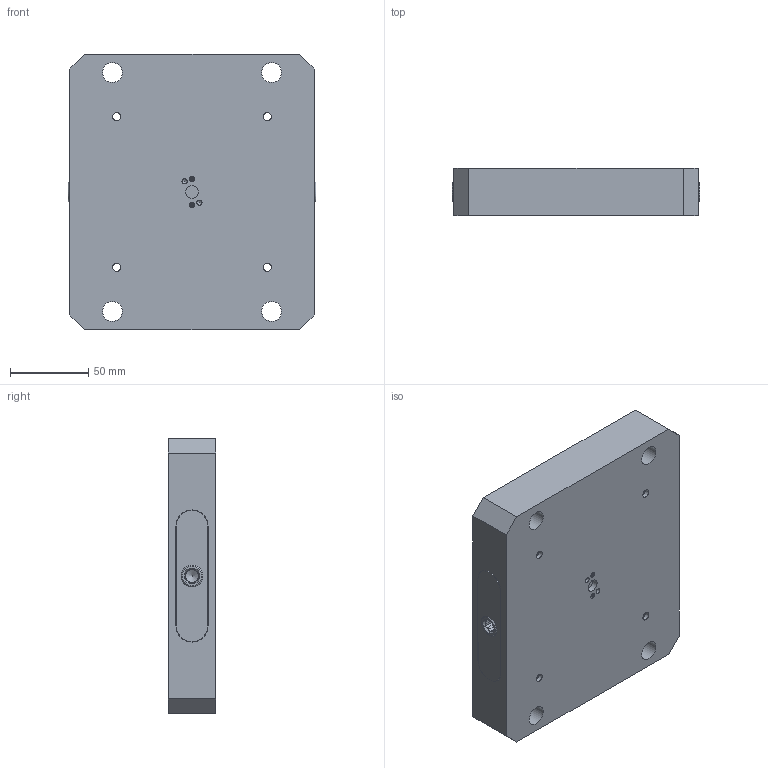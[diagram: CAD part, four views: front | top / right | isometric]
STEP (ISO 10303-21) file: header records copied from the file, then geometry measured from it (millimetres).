
FILE_DESCRIPTION (( 'STEP AP214' ), '1' );
FILE_NAME ('RL96S-67_WEBSITE.STEP', '2025-08-11T11:35:33', ( '' ), ( '' ), 'SwSTEP 2.0', 'SolidWorks 2025', '' );
FILE_SCHEMA (( 'AUTOMOTIVE_DESIGN' ));
Length unit declared in the file: inch
Products named in the file (10): D_RL96-2R_WEBSITE; 9750K730_PLASTIC ROUND PLUG_WEBSITE_9750K73; D_RL96-3_WEBSITE; D_RL96-167A_WEBSITE; D_HW27X20.DB_WEBSITE; 9452K183-Base-O-Ring_WEBSITE; D_SB54_WEBSITE_FINISHED PART; 9452K121-Truck-O-Ring_WEBSITE; D_RL96-2L_WEBSITE; RL96S-67_WEBSITE
Assembly tree (16 placements, depth 2):
  9750K730_PLASTIC ROUND PLUG_WEBSITE_9750K73
  RL96S-67_WEBSITE
    D_RL96-167A_WEBSITE
    D_HW27X20.DB_WEBSITE  x4
    D_RL96-2L_WEBSITE
    D_RL96-2R_WEBSITE
    D_RL96-3_WEBSITE
    D_SB54_WEBSITE_FINISHED PART  x2
    9452K183-Base-O-Ring_WEBSITE  x4
    9452K121-Truck-O-Ring_WEBSITE  x2
Bounding box: 158 x 30 x 176 mm (x, y, z)
Volume: 722593.8 mm3; surface area: 140478 mm2
Topology: 18 solids, 18 shells, 292 faces, 654 edges, 410 vertices
Faces by surface type: plane 169, cylinder 91, cone 20, torus 10, bspline 2
Full cylindrical faces by diameter (mm): 0.127 x2, 2.5 x2, 3.3 x4, 4 x2, 4.7 x2, 5 x2, 5.182 x6, 8.026 x1, 8.204 x2, 9 x2, 9.525 x2, 10.795 x1, 12.192 x4, 12.573 x4, 12.725 x4, 14 x2, 15.748 x2, 19.05 x6, 19.99 x1, 20 x4, 20.035 x4, 20.574 x4, 26.982 x4, 26.993 x4, 27.051 x4
Entity records: 9230 total; most frequent: CARTESIAN_POINT 3209, DIRECTION 1134, ORIENTED_EDGE 912, AXIS2_PLACEMENT_3D 461, EDGE_CURVE 456, EDGE_LOOP 386, VERTEX_POINT 330, FACE_OUTER_BOUND 309
